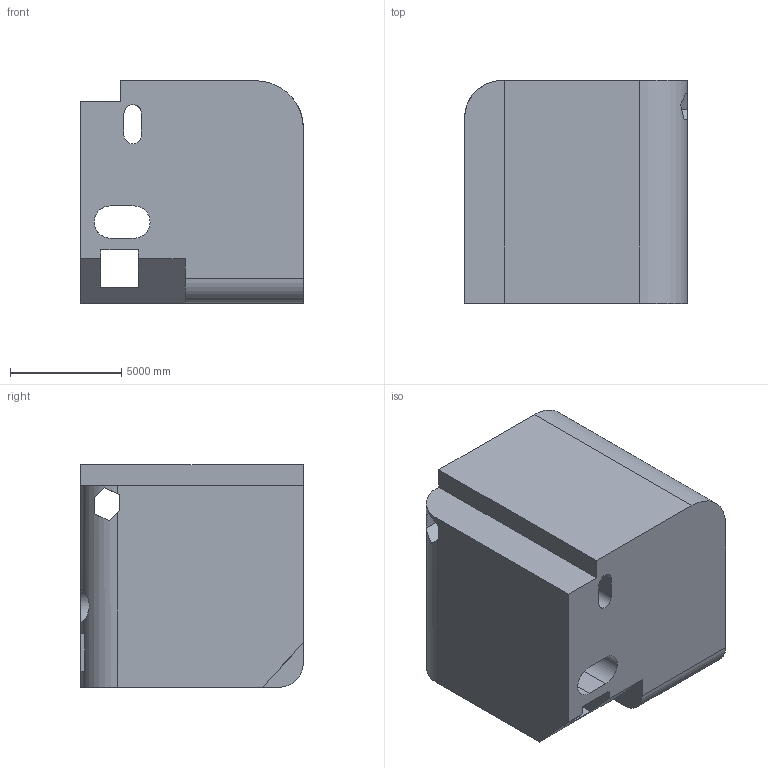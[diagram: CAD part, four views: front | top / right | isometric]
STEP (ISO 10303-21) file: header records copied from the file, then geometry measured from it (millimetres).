
FILE_DESCRIPTION (( 'STEP AP203' ), '1' );
FILE_NAME ('182.STEP', '2022-09-06T13:35:31', ( 'user' ), ( '' ), 'SwSTEP 2.0', 'SolidWorks 2021', '' );
FILE_SCHEMA (( 'CONFIG_CONTROL_DESIGN' ));
Length unit declared in the file: centimetre
Products named in the file (1): 182
Bounding box: 10000 x 10000 x 10000 mm (x, y, z)
Volume: 874475900852.2 mm3; surface area: 761328114.3 mm2
Topology: 1 solids, 1 shells, 40 faces, 135 edges, 90 vertices
Faces by surface type: plane 30, cylinder 10
Entity records: 1672 total; most frequent: CARTESIAN_POINT 426, ORIENTED_EDGE 270, DIRECTION 224, EDGE_CURVE 135, VECTOR 96, LINE 96, VERTEX_POINT 90, AXIS2_PLACEMENT_3D 64
